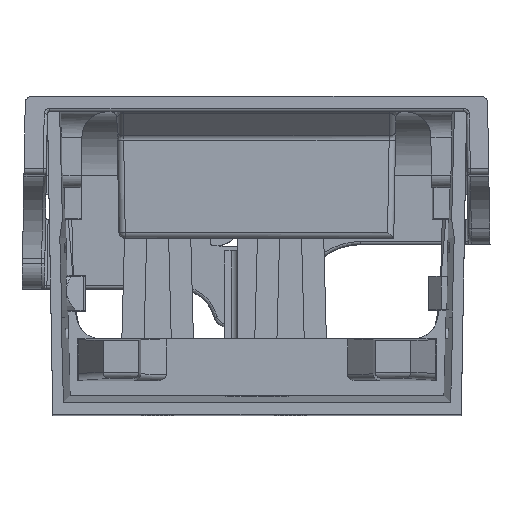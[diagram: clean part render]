
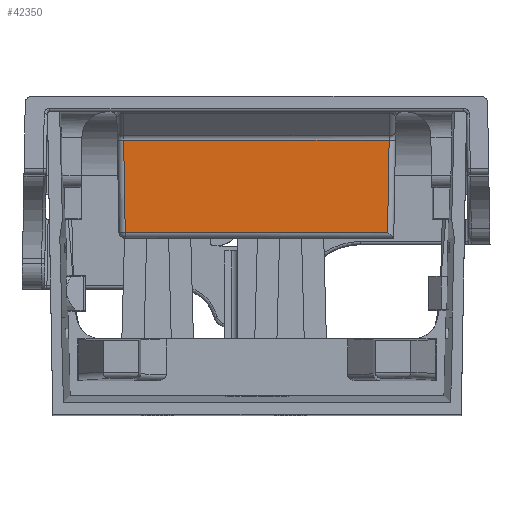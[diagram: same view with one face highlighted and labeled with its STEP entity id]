
A CAD part, top view. The second image highlights one B-rep face of the part: STEP entity #42350.
In plain terms, the highlighted planar face has unit normal (0, -0.018, 1) as drawn and (0, -0.017, -1) by its records, which use the part's own axes.
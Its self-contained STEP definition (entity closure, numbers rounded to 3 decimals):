
#499 = ORIENTED_EDGE ( 'NONE', *, *, #1916, .T. ) ;
#1527 = CARTESIAN_POINT ( 'NONE',  ( 27.236, 21.662, 4.865 ) ) ;
#1916 = EDGE_CURVE ( 'NONE', #37678, #30373, #24910, .T. ) ;
#3999 = DIRECTION ( 'NONE',  ( -0.017, 1., -0.017 ) ) ;
#6824 = VECTOR ( 'NONE', #43047, 1000. ) ;
#6866 = LINE ( 'NONE', #16901, #24946 ) ;
#8460 = AXIS2_PLACEMENT_3D ( 'NONE', #8752, #32546, #12183 ) ;
#8752 = CARTESIAN_POINT ( 'NONE',  ( 5.9, 13.9, 5. ) ) ;
#10669 = CARTESIAN_POINT ( 'NONE',  ( 6.4, 13.909, 5. ) ) ;
#12183 = DIRECTION ( 'NONE',  ( 0., 1., -0.017 ) ) ;
#12536 = ORIENTED_EDGE ( 'NONE', *, *, #26175, .T. ) ;
#12746 = CARTESIAN_POINT ( 'NONE',  ( 5.9, 14.391, 4.991 ) ) ;
#16181 = DIRECTION ( 'NONE',  ( -1., 0., 0. ) ) ;
#16901 = CARTESIAN_POINT ( 'NONE',  ( 27.094, 13.53, 5.006 ) ) ;
#18269 = CARTESIAN_POINT ( 'NONE',  ( 6.391, 14.391, 4.991 ) ) ;
#18536 = CARTESIAN_POINT ( 'NONE',  ( 27.109, 14.391, 4.991 ) ) ;
#18883 = PLANE ( 'NONE',  #8460 ) ;
#19289 = CARTESIAN_POINT ( 'NONE',  ( 27.739, 21.662, 4.865 ) ) ;
#19575 = LINE ( 'NONE', #10669, #36587 ) ;
#23271 = VERTEX_POINT ( 'NONE', #18536 ) ;
#24910 = LINE ( 'NONE', #19289, #6824 ) ;
#24946 = VECTOR ( 'NONE', #37255, 1000. ) ;
#25033 = VECTOR ( 'NONE', #16181, 1000. ) ;
#26067 = LINE ( 'NONE', #12746, #25033 ) ;
#26175 = EDGE_CURVE ( 'NONE', #30373, #23271, #6866, .T. ) ;
#28746 = FACE_OUTER_BOUND ( 'NONE', #28933, .T. ) ;
#28933 = EDGE_LOOP ( 'NONE', ( #41791, #43433, #499, #12536 ) ) ;
#29444 = CARTESIAN_POINT ( 'NONE',  ( 6.264, 21.662, 4.865 ) ) ;
#30373 = VERTEX_POINT ( 'NONE', #1527 ) ;
#30810 = VERTEX_POINT ( 'NONE', #18269 ) ;
#31047 = EDGE_CURVE ( 'NONE', #23271, #30810, #26067, .T. ) ;
#32546 = DIRECTION ( 'NONE',  ( 0., -0.017, -1. ) ) ;
#36587 = VECTOR ( 'NONE', #3999, 1000. ) ;
#37255 = DIRECTION ( 'NONE',  ( -0.017, -1., 0.017 ) ) ;
#37678 = VERTEX_POINT ( 'NONE', #29444 ) ;
#38537 = EDGE_CURVE ( 'NONE', #30810, #37678, #19575, .T. ) ;
#41791 = ORIENTED_EDGE ( 'NONE', *, *, #31047, .T. ) ;
#42350 = ADVANCED_FACE ( 'NONE', ( #28746 ), #18883, .T. ) ;
#43047 = DIRECTION ( 'NONE',  ( 1., 0., 0. ) ) ;
#43433 = ORIENTED_EDGE ( 'NONE', *, *, #38537, .T. ) ;
